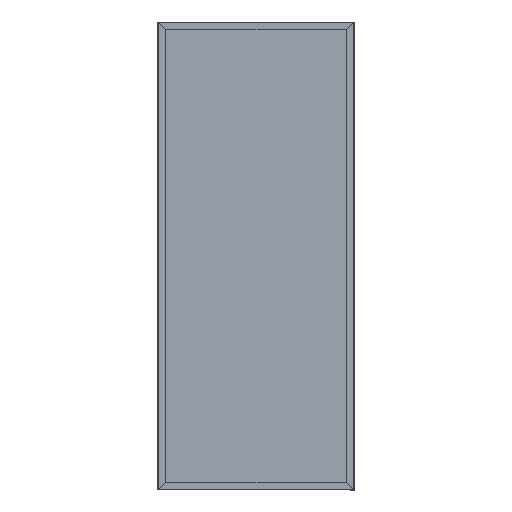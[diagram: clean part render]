
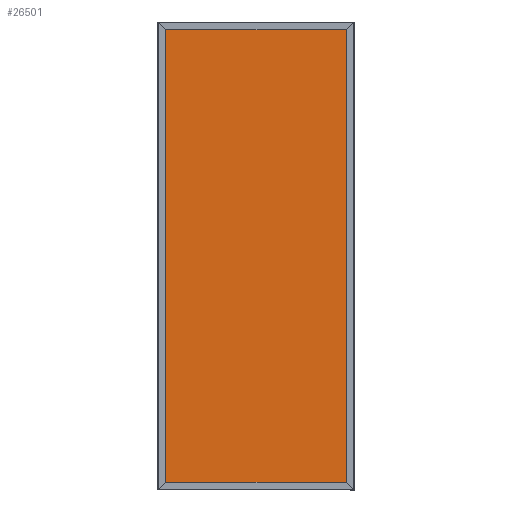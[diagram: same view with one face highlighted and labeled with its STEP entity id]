
A CAD part, top view. The second image highlights one B-rep face of the part: STEP entity #26501.
In plain terms, the highlighted planar face has unit normal (0, 0, 1).
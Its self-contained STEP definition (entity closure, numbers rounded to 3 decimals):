
#256 = EDGE_CURVE ( 'NONE', #5849, #3018, #11355, .T. ) ;
#337 = VERTEX_POINT ( 'NONE', #10846 ) ;
#994 = VECTOR ( 'NONE', #19720, 1000. ) ;
#1136 = PLANE ( 'NONE',  #20482 ) ;
#1687 = VERTEX_POINT ( 'NONE', #24894 ) ;
#1778 = VECTOR ( 'NONE', #7321, 1000. ) ;
#2015 = EDGE_CURVE ( 'NONE', #1687, #3018, #19438, .T. ) ;
#2047 = EDGE_LOOP ( 'NONE', ( #12915, #13627, #19330, #3372 ) ) ;
#3018 = VERTEX_POINT ( 'NONE', #11514 ) ;
#3335 = CARTESIAN_POINT ( 'NONE',  ( 465.07, 1162.2, -13.25 ) ) ;
#3372 = ORIENTED_EDGE ( 'NONE', *, *, #256, .T. ) ;
#4089 = VECTOR ( 'NONE', #22011, 1000. ) ;
#4989 = CARTESIAN_POINT ( 'NONE',  ( 0., 0., -13.25 ) ) ;
#5849 = VERTEX_POINT ( 'NONE', #3335 ) ;
#6016 = LINE ( 'NONE', #23986, #994 ) ;
#6550 = CARTESIAN_POINT ( 'NONE',  ( -465.07, 0., -13.25 ) ) ;
#7276 = FACE_OUTER_BOUND ( 'NONE', #2047, .T. ) ;
#7321 = DIRECTION ( 'NONE',  ( -1., 0., 0. ) ) ;
#7837 = DIRECTION ( 'NONE',  ( 0., 0., -1. ) ) ;
#8605 = EDGE_CURVE ( 'NONE', #337, #1687, #9623, .T. ) ;
#9623 = LINE ( 'NONE', #13922, #1778 ) ;
#9859 = DIRECTION ( 'NONE',  ( -1., 0., 0. ) ) ;
#10846 = CARTESIAN_POINT ( 'NONE',  ( 465.07, -1162.2, -13.25 ) ) ;
#11355 = LINE ( 'NONE', #14075, #20793 ) ;
#11514 = CARTESIAN_POINT ( 'NONE',  ( -465.07, 1162.2, -13.25 ) ) ;
#12915 = ORIENTED_EDGE ( 'NONE', *, *, #2015, .F. ) ;
#13627 = ORIENTED_EDGE ( 'NONE', *, *, #8605, .F. ) ;
#13922 = CARTESIAN_POINT ( 'NONE',  ( 0., -1162.2, -13.25 ) ) ;
#14075 = CARTESIAN_POINT ( 'NONE',  ( 0., 1162.2, -13.25 ) ) ;
#19330 = ORIENTED_EDGE ( 'NONE', *, *, #20994, .T. ) ;
#19438 = LINE ( 'NONE', #6550, #4089 ) ;
#19720 = DIRECTION ( 'NONE',  ( 0., 1., 0. ) ) ;
#20482 = AXIS2_PLACEMENT_3D ( 'NONE', #4989, #7837, #9859 ) ;
#20793 = VECTOR ( 'NONE', #22777, 1000. ) ;
#20994 = EDGE_CURVE ( 'NONE', #337, #5849, #6016, .T. ) ;
#22011 = DIRECTION ( 'NONE',  ( 0., 1., 0. ) ) ;
#22777 = DIRECTION ( 'NONE',  ( -1., 0., 0. ) ) ;
#23986 = CARTESIAN_POINT ( 'NONE',  ( 465.07, 0., -13.25 ) ) ;
#24894 = CARTESIAN_POINT ( 'NONE',  ( -465.07, -1162.2, -13.25 ) ) ;
#26501 = ADVANCED_FACE ( 'NONE', ( #7276 ), #1136, .F. ) ;
